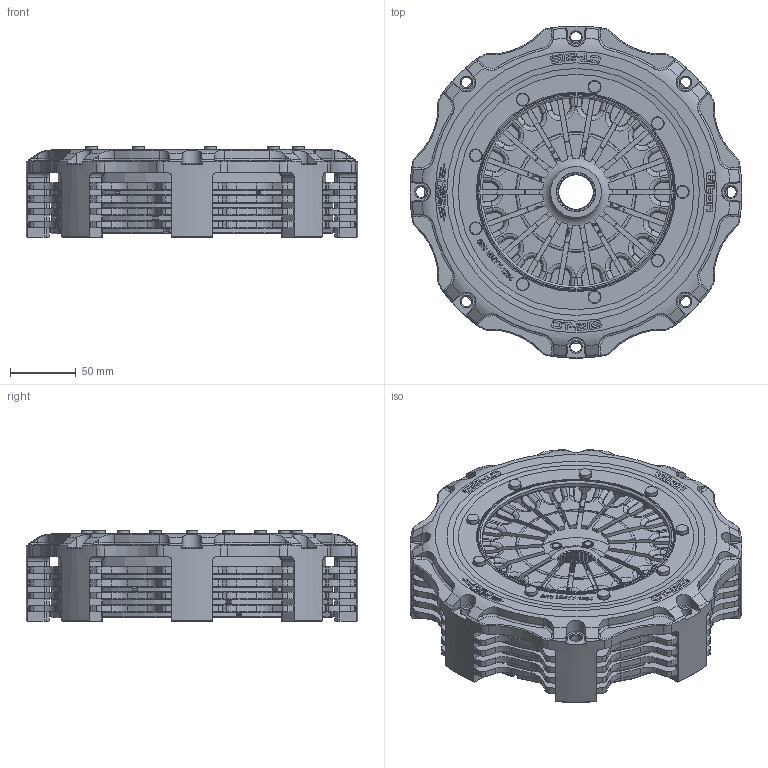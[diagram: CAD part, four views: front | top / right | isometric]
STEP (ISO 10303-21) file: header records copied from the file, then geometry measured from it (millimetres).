
FILE_DESCRIPTION(/* description */ ('Unknown'),/* implementation_level */ '2;1');
FILE_NAME(/* name */ '68-004',/* time_stamp */ '2024-12-30T11:34:57-08:00',/* author */ ('Unknown'),/* organization */ ('Unknown'),/* preprocessor_version */ 'ST-DEVELOPER v18.104',/* originating_system */ 'Solid Edge',/* authorisation */ 'Unknown');
FILE_SCHEMA (('AUTOMOTIVE_DESIGN {1 0 10303 214 3 1 1}'));
Length unit declared in the file: millimetre
Products named in the file (1): 68-004
Bounding box: 252.96 x 252.96 x 68.76 mm (x, y, z)
Volume: 1664643.1 mm3; surface area: 438795.9 mm2
Topology: 10 solids, 10 shells, 3511 faces, 10180 edges, 6756 vertices
Faces by surface type: cylinder 1415, plane 1110, bspline 390, cone 356, torus 240
Full cylindrical faces by diameter (mm): 5.309 x9, 6.375 x32, 6.5 x32, 6.528 x32, 8.204 x8, 8.89 x18, 12.7 x32, 44.501 x4, 78.74 x4, 143.51 x1, 148.59 x4, 167.352 x1, 203.962 x2, 219.024 x1
Entity records: 221851 total; most frequent: CARTESIAN_POINT 113023, ORIENTED_EDGE 19152, DIRECTION 15199, EDGE_CURVE 9576, VERTEX_POINT 6502, AXIS2_PLACEMENT_3D 6057, EDGE_LOOP 4112, FACE_BOUND 4112
